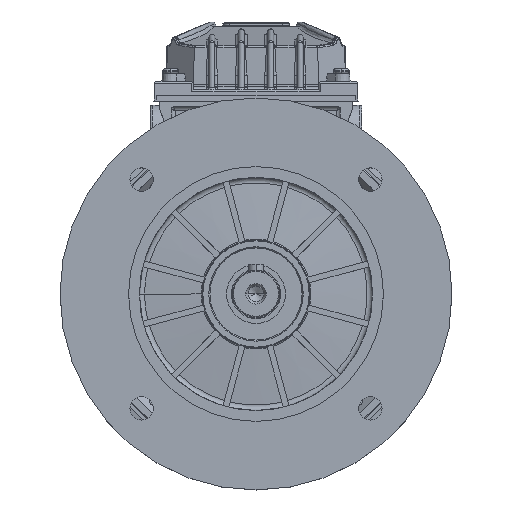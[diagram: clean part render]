
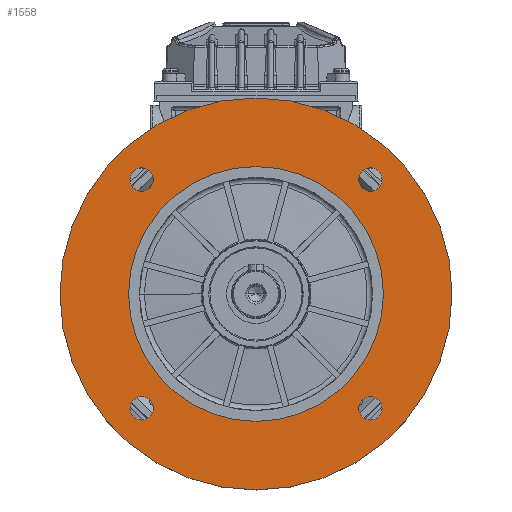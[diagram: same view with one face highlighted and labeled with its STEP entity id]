
A CAD part, top view. The second image highlights one B-rep face of the part: STEP entity #1558.
In plain terms, the highlighted planar face has unit normal (0, 0, 1) as drawn and (0, -1, 0) by its records, which use the part's own axes.
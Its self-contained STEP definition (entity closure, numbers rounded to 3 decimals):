
#1558 = ADVANCED_FACE ( 'NONE', ( #99219, #36771, #47813, #137645, #142193, #84555 ), #144136, .T. ) ;
#4631 = DIRECTION ( 'NONE',  ( 0., 0., 1. ) ) ;
#5199 = DIRECTION ( 'NONE',  ( 0., -1., 0. ) ) ;
#5755 = DIRECTION ( 'NONE',  ( 0., 0., -1. ) ) ;
#7045 = ORIENTED_EDGE ( 'NONE', *, *, #16631, .F. ) ;
#8514 = CARTESIAN_POINT ( 'NONE',  ( -58.336, 3.5, -64.336 ) ) ;
#12247 = DIRECTION ( 'NONE',  ( 0., 0., 1. ) ) ;
#12387 = DIRECTION ( 'NONE',  ( 0., -1., 0. ) ) ;
#16631 = EDGE_CURVE ( 'NONE', #51276, #112671, #79050, .T. ) ;
#16906 = CARTESIAN_POINT ( 'NONE',  ( -58.336, 3.5, -52.336 ) ) ;
#18026 = CARTESIAN_POINT ( 'NONE',  ( 58.336, 3.5, -58.336 ) ) ;
#20235 = ORIENTED_EDGE ( 'NONE', *, *, #79721, .F. ) ;
#21252 = DIRECTION ( 'NONE',  ( 0., 1., 0. ) ) ;
#21906 = CIRCLE ( 'NONE', #131074, 6. ) ;
#26093 = DIRECTION ( 'NONE',  ( 0., -1., 0. ) ) ;
#28919 = CARTESIAN_POINT ( 'NONE',  ( -58.336, 3.5, -58.336 ) ) ;
#29580 = AXIS2_PLACEMENT_3D ( 'NONE', #38792, #26093, #113958 ) ;
#31233 = VERTEX_POINT ( 'NONE', #36812 ) ;
#32869 = VERTEX_POINT ( 'NONE', #114309 ) ;
#33005 = CARTESIAN_POINT ( 'NONE',  ( 58.336, 3.5, -64.336 ) ) ;
#33571 = DIRECTION ( 'NONE',  ( 0., 0., -1. ) ) ;
#33677 = EDGE_CURVE ( 'NONE', #42237, #55504, #77077, .T. ) ;
#35407 = EDGE_LOOP ( 'NONE', ( #20235, #175824 ) ) ;
#36427 = CARTESIAN_POINT ( 'NONE',  ( 58.336, 3.5, 58.336 ) ) ;
#36771 = FACE_BOUND ( 'NONE', #81396, .T. ) ;
#36812 = CARTESIAN_POINT ( 'NONE',  ( 58.336, 3.5, -52.336 ) ) ;
#38430 = DIRECTION ( 'NONE',  ( 0., 0., 1. ) ) ;
#38538 = CIRCLE ( 'NONE', #182119, 6. ) ;
#38792 = CARTESIAN_POINT ( 'NONE',  ( -58.336, 3.5, 58.336 ) ) ;
#41589 = CARTESIAN_POINT ( 'NONE',  ( 0., 3.5, 65. ) ) ;
#42237 = VERTEX_POINT ( 'NONE', #8514 ) ;
#42413 = CARTESIAN_POINT ( 'NONE',  ( 0., 3.5, -65. ) ) ;
#42857 = AXIS2_PLACEMENT_3D ( 'NONE', #68439, #53821, #172967 ) ;
#44740 = CARTESIAN_POINT ( 'NONE',  ( 0., 3.5, 0. ) ) ;
#47813 = FACE_BOUND ( 'NONE', #183647, .T. ) ;
#48788 = DIRECTION ( 'NONE',  ( 0., -1., 0. ) ) ;
#51276 = VERTEX_POINT ( 'NONE', #52636 ) ;
#52614 = DIRECTION ( 'NONE',  ( 0., -1., 0. ) ) ;
#52636 = CARTESIAN_POINT ( 'NONE',  ( -58.336, 3.5, 52.336 ) ) ;
#53652 = EDGE_CURVE ( 'NONE', #141302, #120941, #80610, .T. ) ;
#53821 = DIRECTION ( 'NONE',  ( 0., -1., 0. ) ) ;
#54545 = CARTESIAN_POINT ( 'NONE',  ( 58.336, 3.5, 64.336 ) ) ;
#55464 = ORIENTED_EDGE ( 'NONE', *, *, #53652, .F. ) ;
#55504 = VERTEX_POINT ( 'NONE', #16906 ) ;
#56347 = EDGE_CURVE ( 'NONE', #175591, #125360, #146983, .T. ) ;
#57245 = CARTESIAN_POINT ( 'NONE',  ( 58.336, 3.5, 52.336 ) ) ;
#61083 = CARTESIAN_POINT ( 'NONE',  ( 0., 3.5, 100. ) ) ;
#61919 = DIRECTION ( 'NONE',  ( 0., 0., -1. ) ) ;
#61965 = ORIENTED_EDGE ( 'NONE', *, *, #116808, .T. ) ;
#62754 = AXIS2_PLACEMENT_3D ( 'NONE', #36427, #83227, #171144 ) ;
#68439 = CARTESIAN_POINT ( 'NONE',  ( -58.336, 3.5, -58.336 ) ) ;
#68864 = CIRCLE ( 'NONE', #134266, 6. ) ;
#69720 = AXIS2_PLACEMENT_3D ( 'NONE', #185436, #52614, #126837 ) ;
#77077 = CIRCLE ( 'NONE', #42857, 6. ) ;
#79050 = CIRCLE ( 'NONE', #69720, 6. ) ;
#79616 = EDGE_CURVE ( 'NONE', #112671, #51276, #157469, .T. ) ;
#79721 = EDGE_CURVE ( 'NONE', #55504, #42237, #38538, .T. ) ;
#80610 = CIRCLE ( 'NONE', #189812, 100. ) ;
#81396 = EDGE_LOOP ( 'NONE', ( #109442, #130213 ) ) ;
#83227 = DIRECTION ( 'NONE',  ( 0., -1., 0. ) ) ;
#84522 = CARTESIAN_POINT ( 'NONE',  ( 0., 3.5, 0. ) ) ;
#84555 = FACE_OUTER_BOUND ( 'NONE', #170525, .T. ) ;
#85988 = EDGE_LOOP ( 'NONE', ( #61965, #120474 ) ) ;
#88525 = AXIS2_PLACEMENT_3D ( 'NONE', #84522, #146000, #12247 ) ;
#90347 = AXIS2_PLACEMENT_3D ( 'NONE', #41589, #102098, #146039 ) ;
#92046 = AXIS2_PLACEMENT_3D ( 'NONE', #159523, #144838, #38430 ) ;
#95683 = CARTESIAN_POINT ( 'NONE',  ( 0., 3.5, 0. ) ) ;
#99219 = FACE_BOUND ( 'NONE', #180875, .T. ) ;
#100289 = AXIS2_PLACEMENT_3D ( 'NONE', #95683, #178081, #121360 ) ;
#101310 = EDGE_CURVE ( 'NONE', #102068, #32869, #140841, .T. ) ;
#102068 = VERTEX_POINT ( 'NONE', #42413 ) ;
#102098 = DIRECTION ( 'NONE',  ( 0., -1., 0. ) ) ;
#109442 = ORIENTED_EDGE ( 'NONE', *, *, #56347, .F. ) ;
#112671 = VERTEX_POINT ( 'NONE', #171722 ) ;
#113958 = DIRECTION ( 'NONE',  ( 0., 0., -1. ) ) ;
#114309 = CARTESIAN_POINT ( 'NONE',  ( 0., 3.5, 65. ) ) ;
#116043 = ORIENTED_EDGE ( 'NONE', *, *, #136561, .F. ) ;
#116808 = EDGE_CURVE ( 'NONE', #32869, #102068, #172800, .T. ) ;
#118180 = CARTESIAN_POINT ( 'NONE',  ( 58.336, 3.5, -58.336 ) ) ;
#120474 = ORIENTED_EDGE ( 'NONE', *, *, #101310, .T. ) ;
#120941 = VERTEX_POINT ( 'NONE', #61083 ) ;
#121360 = DIRECTION ( 'NONE',  ( 0., 0., 1. ) ) ;
#122650 = ORIENTED_EDGE ( 'NONE', *, *, #79616, .F. ) ;
#125360 = VERTEX_POINT ( 'NONE', #57245 ) ;
#126837 = DIRECTION ( 'NONE',  ( 0., 0., -1. ) ) ;
#127233 = VERTEX_POINT ( 'NONE', #33005 ) ;
#127378 = CARTESIAN_POINT ( 'NONE',  ( 0., 3.5, -100. ) ) ;
#130213 = ORIENTED_EDGE ( 'NONE', *, *, #135052, .F. ) ;
#131074 = AXIS2_PLACEMENT_3D ( 'NONE', #118180, #48788, #5755 ) ;
#134266 = AXIS2_PLACEMENT_3D ( 'NONE', #18026, #164511, #61919 ) ;
#135052 = EDGE_CURVE ( 'NONE', #125360, #175591, #171254, .T. ) ;
#136561 = EDGE_CURVE ( 'NONE', #31233, #127233, #21906, .T. ) ;
#137645 = FACE_BOUND ( 'NONE', #35407, .T. ) ;
#140841 = CIRCLE ( 'NONE', #100289, 65. ) ;
#141302 = VERTEX_POINT ( 'NONE', #127378 ) ;
#142193 = FACE_BOUND ( 'NONE', #85988, .T. ) ;
#144136 = PLANE ( 'NONE',  #90347 ) ;
#144838 = DIRECTION ( 'NONE',  ( 0., 1., 0. ) ) ;
#146000 = DIRECTION ( 'NONE',  ( 0., 1., 0. ) ) ;
#146039 = DIRECTION ( 'NONE',  ( 0., 0., -1. ) ) ;
#146983 = CIRCLE ( 'NONE', #62754, 6. ) ;
#149948 = DIRECTION ( 'NONE',  ( 0., 0., -1. ) ) ;
#155651 = AXIS2_PLACEMENT_3D ( 'NONE', #167352, #5199, #33571 ) ;
#157469 = CIRCLE ( 'NONE', #29580, 6. ) ;
#159523 = CARTESIAN_POINT ( 'NONE',  ( 0., 3.5, 0. ) ) ;
#164511 = DIRECTION ( 'NONE',  ( 0., -1., 0. ) ) ;
#165956 = ORIENTED_EDGE ( 'NONE', *, *, #172344, .F. ) ;
#167352 = CARTESIAN_POINT ( 'NONE',  ( 58.336, 3.5, 58.336 ) ) ;
#168918 = EDGE_CURVE ( 'NONE', #127233, #31233, #68864, .T. ) ;
#170525 = EDGE_LOOP ( 'NONE', ( #165956, #55464 ) ) ;
#171144 = DIRECTION ( 'NONE',  ( 0., 0., -1. ) ) ;
#171254 = CIRCLE ( 'NONE', #155651, 6. ) ;
#171722 = CARTESIAN_POINT ( 'NONE',  ( -58.336, 3.5, 64.336 ) ) ;
#171845 = ORIENTED_EDGE ( 'NONE', *, *, #168918, .F. ) ;
#172344 = EDGE_CURVE ( 'NONE', #120941, #141302, #188706, .T. ) ;
#172800 = CIRCLE ( 'NONE', #88525, 65. ) ;
#172967 = DIRECTION ( 'NONE',  ( 0., 0., -1. ) ) ;
#175591 = VERTEX_POINT ( 'NONE', #54545 ) ;
#175824 = ORIENTED_EDGE ( 'NONE', *, *, #33677, .F. ) ;
#178081 = DIRECTION ( 'NONE',  ( 0., 1., 0. ) ) ;
#180875 = EDGE_LOOP ( 'NONE', ( #116043, #171845 ) ) ;
#182119 = AXIS2_PLACEMENT_3D ( 'NONE', #28919, #12387, #149948 ) ;
#183647 = EDGE_LOOP ( 'NONE', ( #122650, #7045 ) ) ;
#185436 = CARTESIAN_POINT ( 'NONE',  ( -58.336, 3.5, 58.336 ) ) ;
#188706 = CIRCLE ( 'NONE', #92046, 100. ) ;
#189812 = AXIS2_PLACEMENT_3D ( 'NONE', #44740, #21252, #4631 ) ;
